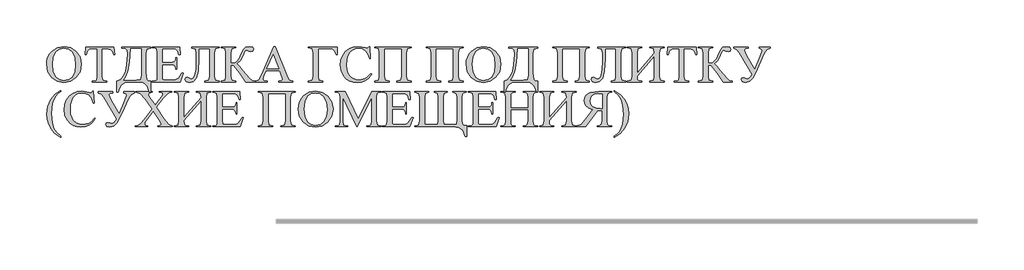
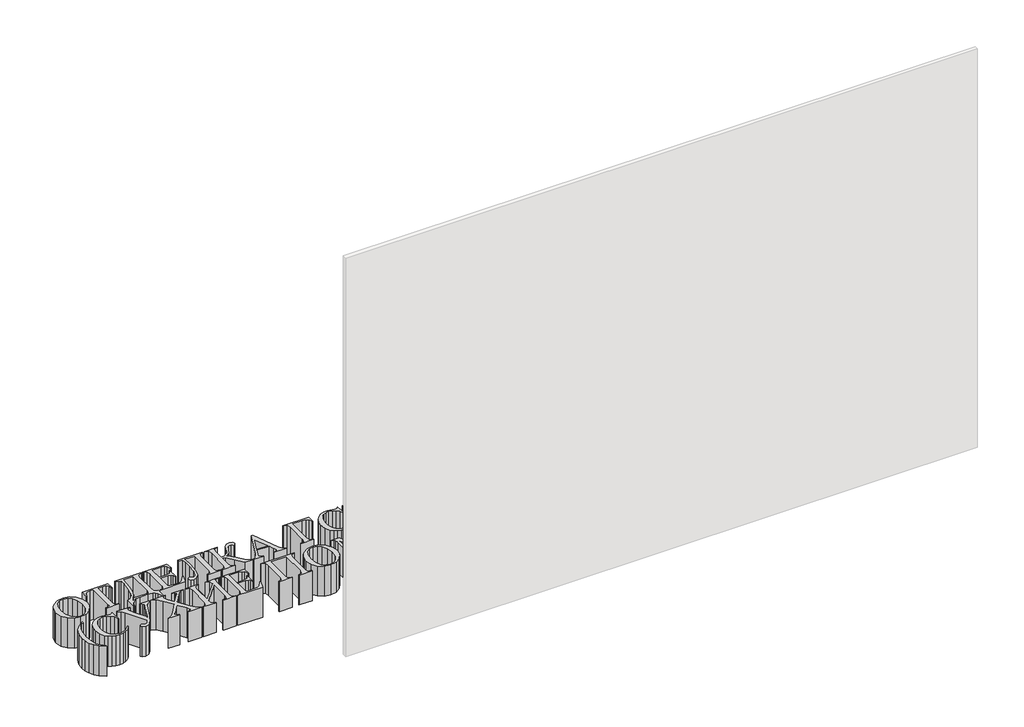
# One storey, part 3 of 17: 1 proxy.
"""IFC4 building model written with IfcOpenShell, lengths in millimetres."""

from ifc_helpers import new_model, si_unit, origin, origin_with_axes, place, context, project, spatial, polyline, outline, extrude, element, save

model = new_model("IFC4")

# Units and contexts
model_context = context("Model", 3, world=origin())
ifc_project = project(units=[si_unit("LENGTHUNIT", "METRE", prefix="MILLI")], contexts=[model_context])

# Site, building, storey
site = spatial("IfcSite", under=ifc_project)
building = spatial("IfcBuilding", under=site)
storey = spatial("IfcBuildingStorey", under=building, Name="Уровень 1", Elevation=0.0)

# Proxy
placement = place(None, origin())
element("IfcBuildingElementProxy", 1, Name="SG_Текст 2", ObjectType="SG_Текст 2", at=placement, inside=storey, context=model_context, shape_type="SweptSolid", body=[
    extrude(outline(polyline([(-694.4542029, -12982.3402374), (-666.748358, -12987.8009538), (-643.0048009, -13004.1831031), (-626.682991, -13028.7311857), (-621.2423877, -13058.6897018), (-626.7232173, -13089.497998), (-643.165706, -13114.5841069), (-667.3919784, -13131.2528684), (-696.2241589, -13136.8091223), (-725.2021597, -13131.3886321), (-749.1418199, -13115.1271616), (-765.2071873, -13090.2572689), (-770.5623098, -13059.011512), (-769.0161124, -13042.2396707), (-764.3775204, -13027.0819085), (-756.6465337, -13013.5382255), (-745.8231524, -13001.6086217), (-722.2405004, -12987.1573335), (-694.4542029, -12982.3402374)]), holes=[polyline([(-696.5861954, -12990.0636816), (-715.0299411, -12993.7443855), (-729.4108334, -13004.7864972), (-740.9658301, -13027.3836056), (-744.8174956, -13058.4885705), (-740.8250381, -13090.5287962), (-728.8476656, -13114.2421836), (-714.6176218, -13125.3748044), (-696.4655165, -13129.085678), (-676.8552089, -13125.0228245), (-660.9859445, -13112.8342641), (-650.4868875, -13091.8864329), (-646.9872019, -13061.5457672), (-650.8388674, -13028.3993189), (-662.3938641, -13004.907176), (-677.1166797, -12993.7745552), (-696.5861954, -12990.0636816)])]), origin_with_axes(), (0.0, 0.0, 1.0), 150.0),
    extrude(outline(polyline([(-482.2203913, -12984.9147188), (-479.6459099, -13018.3829772), (-483.8294422, -13018.3829772), (-487.2486753, -13005.1083074), (-496.6012836, -12995.6752466), (-512.028059, -12992.638163), (-533.7100196, -12992.638163), (-533.7100196, -13108.4898267), (-530.813728, -13126.7525542), (-518.1826786, -13131.6601594), (-513.1141683, -13131.6601594), (-513.1141683, -13134.2346408), (-574.9017223, -13134.2346408), (-574.9017223, -13131.6601594), (-569.7527594, -13131.6601594), (-561.8784667, -13130.1416177), (-556.679221, -13125.5859923), (-554.3058709, -13108.4898267), (-554.3058709, -12992.638163), (-572.1663357, -12992.638163), (-586.9696039, -12994.1667614), (-596.744588, -13002.2321289), (-601.5717407, -13018.3829772), (-605.7954992, -13018.3829772), (-603.2210178, -12984.9147188), (-482.2203913, -12984.9147188)])), origin_with_axes(), (0.0, 0.0, 1.0), 150.0),
    extrude(outline(polyline([(-448.7521329, -12984.9147188), (-325.1770251, -12984.9147188), (-325.1770251, -12990.0636816), (-342.0921725, -12994.4483453), (-345.7728764, -13013.032883), (-345.7728764, -13095.2553832), (-343.0173767, -13124.7412406), (-337.179539, -13128.9649992), (-325.1770251, -13130.3729187), (-325.1770251, -13178.0008249), (-330.3259879, -13178.0008249), (-340.6038004, -13151.2302408), (-348.1763961, -13142.7575822), (-356.6943092, -13137.653874), (-378.235478, -13134.2346408), (-415.0827432, -13134.2346408), (-436.0506875, -13137.6840437), (-450.6025415, -13148.0322522), (-459.6735658, -13162.423201), (-464.1990214, -13178.0008249), (-469.3479843, -13178.0008249), (-469.3479843, -13130.3729187), (-453.9966332, -13124.3289213), (-441.813101, -13109.2541259), (-432.837614, -13087.4313732), (-427.1103986, -13061.1435044), (-423.0073188, -13014.36035), (-425.8633841, -12998.2698411), (-432.641511, -12991.8135245), (-448.7521329, -12990.0636816), (-448.7521329, -12984.9147188)]), holes=[polyline([(-410.1349117, -12992.638163), (-414.0971995, -13048.5577095), (-420.5132899, -13084.8568918), (-429.4636355, -13108.5149681), (-441.0286887, -13126.5111966), (-386.6427688, -13126.5111966), (-369.2449061, -13123.916602), (-366.3687277, -13107.0014546), (-366.3687277, -12992.638163), (-410.1349117, -12992.638163)])]), origin_with_axes(), (0.0, 0.0, 1.0), 150.0),
    extrude(outline(polyline([(-276.2618782, -12992.638163), (-276.2618782, -13051.8512356), (-240.2191384, -13051.8512356), (-223.3643304, -13048.1906448), (-218.949497, -13041.5432533), (-217.0488056, -13031.2553843), (-214.4743242, -13031.2553843), (-214.4743242, -13080.1705311), (-217.0488056, -13080.1705311), (-220.1060023, -13067.2176715), (-226.5019796, -13061.6061066), (-240.2191384, -13059.5746798), (-276.2618782, -13059.5746798), (-276.2618782, -13109.5357098), (-275.3366739, -13121.7644965), (-272.098459, -13125.2239559), (-263.3492448, -13126.5111966), (-236.7999052, -13126.5111966), (-217.5114078, -13124.6607881), (-205.9463545, -13117.3396066), (-191.3039915, -13095.6174196), (-186.1550287, -13095.6174196), (-199.7515086, -13134.2346408), (-317.4535808, -13134.2346408), (-317.4535808, -13131.6601594), (-312.3448443, -13131.6601594), (-302.6905389, -13129.0052255), (-298.0846308, -13123.5143393), (-296.8577295, -13108.4898267), (-296.8577295, -13010.6595329), (-299.6333423, -12992.1554478), (-312.3448443, -12987.4892002), (-317.4535808, -12987.4892002), (-317.4535808, -12984.9147188), (-201.6019172, -12984.9147188), (-199.0274357, -13018.3829772), (-204.1763986, -13018.3829772), (-209.4460402, -13001.4074904), (-218.0142362, -12994.3678927), (-234.0242925, -12992.638163), (-276.2618782, -12992.638163)])), origin_with_axes(), (0.0, 0.0, 1.0), 150.0),
    extrude(outline(polyline([(-72.8778464, -12992.638163), (-119.2185119, -12992.638163), (-119.2185119, -13034.8355225), (-122.0041812, -13087.5067975), (-130.3611893, -13117.7619824), (-143.6157459, -13132.0473373), (-161.0940612, -13136.8091223), (-173.926242, -13132.8267213), (-178.4315844, -13123.5746787), (-175.5352928, -13116.5954205), (-168.4956952, -13113.6387895), (-160.5711196, -13117.2993803), (-151.5202084, -13121.3622338), (-142.6855134, -13117.364748), (-135.650944, -13105.3722906), (-131.0500642, -13082.2270993), (-129.5164376, -13044.7714117), (-129.5164376, -13013.3144669), (-133.1971414, -12994.4885716), (-150.1122889, -12990.0636816), (-150.1122889, -12984.9147188), (-31.6861438, -12984.9147188), (-31.6861438, -12987.4892002), (-48.6012912, -12991.893977), (-52.2819951, -13010.6595329), (-52.2819951, -13108.4898267), (-48.6012912, -13127.2553826), (-31.6861438, -13131.6601594), (-31.6861438, -13134.2346408), (-93.4736977, -13134.2346408), (-93.4736977, -13131.6601594), (-76.5585503, -13127.2553826), (-72.8778464, -13108.4898267), (-72.8778464, -12992.638163)])), origin_with_axes(), (0.0, 0.0, 1.0), 150.0),
    extrude(outline(polyline([(121.4150478, -13130.1315611), (121.4150478, -13134.2346408), (82.4357901, -13134.2346408), (55.6450929, -13096.4018319), (30.7450305, -13065.4276024), (17.2290031, -13062.1491612), (17.2290031, -13108.4898267), (20.8493676, -13127.2553826), (37.8248544, -13131.6601594), (37.8248544, -13134.2346408), (-23.9626996, -13134.2346408), (-23.9626996, -13131.6601594), (-7.0877784, -13127.2956089), (-3.3668482, -13108.4898267), (-3.3668482, -13010.6595329), (-7.0475521, -12991.893977), (-23.9626996, -12987.4892002), (-23.9626996, -12984.9147188), (37.8248544, -12984.9147188), (37.8248544, -12987.4892002), (20.8493676, -12991.893977), (17.2290031, -13010.6595329), (17.2290031, -13054.425717), (34.1039242, -13052.796553), (44.6432075, -13045.8776342), (53.9153632, -13034.2321284), (62.6846905, -13013.7167296), (70.8908501, -12995.0919656), (81.1083232, -12986.1013938), (97.8424524, -12982.3402374), (110.7550857, -12985.4376603), (115.0592968, -12994.7299292), (111.6601768, -13002.2924683), (103.8763932, -13005.5105701), (93.3773362, -13001.4477166), (84.3666512, -12997.7871259), (78.2120316, -13001.5281692), (70.0460983, -13020.5954222), (57.8575379, -13043.9769428), (42.6922333, -13056.9197459), (53.3924217, -13065.7091863), (69.3220254, -13085.4803991), (98.4056202, -13121.0404236), (108.8644509, -13127.7179848), (121.4150478, -13130.1315611)])), origin_with_axes(), (0.0, 0.0, 1.0), 150.0),
    extrude(outline(polyline([(226.6872019, -13085.319494), (168.4395599, -13085.319494), (158.8254809, -13107.6853013), (155.0844376, -13121.6035914), (158.3427656, -13128.0397949), (172.4219608, -13131.6601594), (172.4219608, -13134.2346408), (124.9549598, -13134.2346408), (124.9549598, -13131.6601594), (137.1032939, -13126.9939119), (149.6136646, -13103.6224478), (201.9882708, -12982.3402374), (207.4992701, -12982.3402374), (256.6557746, -13105.5935351), (268.1202622, -13126.3100652), (282.440815, -13131.6601594), (282.440815, -13134.2346408), (223.4288739, -13134.2346408), (223.4288739, -13131.6601594), (235.5168686, -13128.341492), (238.674631, -13121.4426863), (234.2497411, -13104.3062944), (226.6872019, -13085.319494)]), holes=[polyline([(223.5897789, -13077.5960497), (198.7299428, -13016.9750577), (171.7783405, -13077.5960497), (223.5897789, -13077.5960497)])]), origin_with_axes(), (0.0, 0.0, 1.0), 150.0),
    extrude(outline(polyline([(472.2685931, -12984.9147188), (472.9122134, -13018.3829772), (467.7632506, -13018.3829772), (462.9964374, -13002.0712238), (452.5174935, -12994.2874402), (434.5765761, -12992.638163), (390.5288082, -12992.638163), (390.5288082, -13108.4898267), (394.1893989, -13127.2553826), (411.1246595, -13131.6601594), (411.1246595, -13134.2346408), (349.3371055, -13134.2346408), (349.3371055, -13131.6601594), (366.252253, -13127.2553826), (369.9329569, -13108.4898267), (369.9329569, -13010.6595329), (366.252253, -12991.893977), (349.3371055, -12987.4892002), (349.3371055, -12984.9147188), (472.2685931, -12984.9147188)])), origin_with_axes(), (0.0, 0.0, 1.0), 150.0),
    extrude(outline(polyline([(611.9342098, -12982.3402374), (614.5086912, -13033.8298657), (611.9342098, -13033.8298657), (603.8235877, -13013.8022105), (592.8468437, -13000.3012679), (579.2051092, -12992.6230782), (563.0995155, -12990.0636816), (549.2365365, -12991.9191184), (536.7714204, -12997.4854288), (526.2623068, -13007.119621), (518.2673352, -13021.1787031), (513.2139098, -13039.4364023), (511.5294346, -13061.666446), (513.1334572, -13080.2912099), (517.945525, -13096.26104), (525.9857512, -13109.1937865), (537.2742488, -13118.7072998), (551.0919733, -13124.5602224), (566.71988, -13126.5111966), (592.0825445, -13120.8191791), (603.6224563, -13112.3163508), (616.2384209, -13098.191901), (619.6576541, -13100.7663824), (607.5445179, -13116.9624853), (593.5709166, -13128.1403606), (577.2641915, -13134.6419318), (558.151684, -13136.8091223), (540.7110809, -13135.1070481), (525.3572157, -13130.0008257), (512.0900883, -13121.490455), (500.9096988, -13109.575936), (489.5658901, -13087.5118258), (485.7846205, -13061.8675773), (488.2836777, -13040.6431905), (495.7808491, -13021.2189294), (507.6626842, -13004.7814689), (523.3157324, -12992.5174842), (541.668969, -12984.8845491), (561.6513697, -12982.3402374), (593.5105772, -12988.2534994), (600.1076858, -12990.0636816), (605.2968749, -12988.494857), (609.3597284, -12982.3402374), (611.9342098, -12982.3402374)])), origin_with_axes(), (0.0, 0.0, 1.0), 150.0),
    extrude(outline(polyline([(748.3817248, -12992.638163), (673.7217638, -12992.638163), (673.7217638, -13108.4898267), (677.3421282, -13127.2553826), (694.3176151, -13131.6601594), (694.3176151, -13134.2346408), (632.5300611, -13134.2346408), (632.5300611, -13131.6601594), (649.4452085, -13127.2553826), (653.1259124, -13108.4898267), (653.1259124, -13010.6595329), (649.4452085, -12991.893977), (632.5300611, -12987.4892002), (632.5300611, -12984.9147188), (789.5734274, -12984.9147188), (789.5734274, -12987.4892002), (772.65828, -12991.893977), (768.9775761, -13010.6595329), (768.9775761, -13108.4898267), (772.65828, -13127.2553826), (789.5734274, -13131.6601594), (789.5734274, -13134.2346408), (727.7858735, -13134.2346408), (727.7858735, -13131.6601594), (744.6809077, -13127.2956089), (748.3817248, -13108.4898267), (748.3817248, -12992.638163)])), origin_with_axes(), (0.0, 0.0, 1.0), 150.0),
    extrude(outline(polyline([(969.7871264, -12992.638163), (895.1271654, -12992.638163), (895.1271654, -13108.4898267), (898.7475299, -13127.2553826), (915.7230167, -13131.6601594), (915.7230167, -13134.2346408), (853.9354628, -13134.2346408), (853.9354628, -13131.6601594), (870.8506102, -13127.2553826), (874.5313141, -13108.4898267), (874.5313141, -13010.6595329), (870.8506102, -12991.893977), (853.9354628, -12987.4892002), (853.9354628, -12984.9147188), (1010.978829, -12984.9147188), (1010.978829, -12987.4892002), (994.0636816, -12991.893977), (990.3829777, -13010.6595329), (990.3829777, -13108.4898267), (994.0636816, -13127.2553826), (1010.978829, -13131.6601594), (1010.978829, -13134.2346408), (949.1912751, -13134.2346408), (949.1912751, -13131.6601594), (966.0863094, -13127.2956089), (969.7871264, -13108.4898267), (969.7871264, -12992.638163)])), origin_with_axes(), (0.0, 0.0, 1.0), 150.0),
    extrude(outline(polyline([(1099.9593429, -12982.3402374), (1127.6651878, -12987.8009538), (1151.408745, -13004.1831031), (1167.7305549, -13028.7311857), (1173.1711582, -13058.6897018), (1167.6903286, -13089.497998), (1151.2478399, -13114.5841069), (1127.0215675, -13131.2528684), (1098.189387, -13136.8091223), (1069.2113862, -13131.3886321), (1045.271726, -13115.1271616), (1029.2063586, -13090.2572689), (1023.8512361, -13059.011512), (1025.3974335, -13042.2396707), (1030.0360255, -13027.0819085), (1037.7670121, -13013.5382255), (1048.5903935, -13001.6086217), (1072.1730455, -12987.1573335), (1099.9593429, -12982.3402374)]), holes=[polyline([(1097.8273505, -12990.0636816), (1079.3836048, -12993.7443855), (1065.0027125, -13004.7864972), (1053.4477158, -13027.3836056), (1049.5960503, -13058.4885705), (1053.5885078, -13090.5287962), (1065.5658803, -13114.2421836), (1079.795924, -13125.3748044), (1097.9480293, -13129.085678), (1117.558337, -13125.0228245), (1133.4276013, -13112.8342641), (1143.9266583, -13091.8864329), (1147.426344, -13061.5457672), (1143.5746785, -13028.3993189), (1132.0196818, -13004.907176), (1117.2968662, -12993.7745552), (1097.8273505, -12990.0636816)])]), origin_with_axes(), (0.0, 0.0, 1.0), 150.0),
    extrude(outline(polyline([(1206.6394165, -12984.9147188), (1330.2145244, -12984.9147188), (1330.2145244, -12990.0636816), (1313.299377, -12994.4483453), (1309.6186731, -13013.032883), (1309.6186731, -13095.2553832), (1312.3741728, -13124.7412406), (1318.2120105, -13128.9649992), (1330.2145244, -13130.3729187), (1330.2145244, -13178.0008249), (1325.0655616, -13178.0008249), (1314.7877491, -13151.2302408), (1307.2151534, -13142.7575822), (1298.6972403, -13137.653874), (1277.1560715, -13134.2346408), (1240.3088063, -13134.2346408), (1219.340862, -13137.6840437), (1204.789008, -13148.0322522), (1195.7179837, -13162.423201), (1191.1925281, -13178.0008249), (1186.0435652, -13178.0008249), (1186.0435652, -13130.3729187), (1201.3949163, -13124.3289213), (1213.5784485, -13109.2541259), (1222.5539354, -13087.4313732), (1228.2811509, -13061.1435044), (1232.3842307, -13014.36035), (1229.5281654, -12998.2698411), (1222.7500385, -12991.8135245), (1206.6394165, -12990.0636816), (1206.6394165, -12984.9147188)]), holes=[polyline([(1245.2566378, -12992.638163), (1241.29435, -13048.5577095), (1234.8782596, -13084.8568918), (1225.927914, -13108.5149681), (1214.3628608, -13126.5111966), (1268.7487807, -13126.5111966), (1286.1466434, -13123.916602), (1289.0228218, -13107.0014546), (1289.0228218, -12992.638163), (1245.2566378, -12992.638163)])]), origin_with_axes(), (0.0, 0.0, 1.0), 150.0),
    extrude(outline(polyline([(1510.4282235, -12992.638163), (1435.7682624, -12992.638163), (1435.7682624, -13108.4898267), (1439.3886269, -13127.2553826), (1456.3641137, -13131.6601594), (1456.3641137, -13134.2346408), (1394.5765598, -13134.2346408), (1394.5765598, -13131.6601594), (1411.4917072, -13127.2553826), (1415.1724111, -13108.4898267), (1415.1724111, -13010.6595329), (1411.4917072, -12991.893977), (1394.5765598, -12987.4892002), (1394.5765598, -12984.9147188), (1551.6199261, -12984.9147188), (1551.6199261, -12987.4892002), (1534.7047787, -12991.893977), (1531.0240748, -13010.6595329), (1531.0240748, -13108.4898267), (1534.7047787, -13127.2553826), (1551.6199261, -13131.6601594), (1551.6199261, -13134.2346408), (1489.8323721, -13134.2346408), (1489.8323721, -13131.6601594), (1506.7274064, -13127.2956089), (1510.4282235, -13108.4898267), (1510.4282235, -12992.638163)])), origin_with_axes(), (0.0, 0.0, 1.0), 150.0),
    extrude(outline(polyline([(1664.8971083, -12992.638163), (1618.5564429, -12992.638163), (1618.5564429, -13034.8355225), (1615.7707735, -13087.5067975), (1607.4137655, -13117.7619824), (1594.1592088, -13132.0473373), (1576.6808936, -13136.8091223), (1563.8487128, -13132.8267213), (1559.3433703, -13123.5746787), (1562.2396619, -13116.5954205), (1569.2792595, -13113.6387895), (1577.2038351, -13117.2993803), (1586.2547464, -13121.3622338), (1595.0894414, -13117.364748), (1602.1240107, -13105.3722906), (1606.7248906, -13082.2270993), (1608.2585172, -13044.7714117), (1608.2585172, -13013.3144669), (1604.5778133, -12994.4885716), (1587.6626659, -12990.0636816), (1587.6626659, -12984.9147188), (1706.088811, -12984.9147188), (1706.088811, -12987.4892002), (1689.1736635, -12991.893977), (1685.4929596, -13010.6595329), (1685.4929596, -13108.4898267), (1689.1736635, -13127.2553826), (1706.088811, -13131.6601594), (1706.088811, -13134.2346408), (1644.301257, -13134.2346408), (1644.301257, -13131.6601594), (1661.2164044, -13127.2553826), (1664.8971083, -13108.4898267), (1664.8971083, -12992.638163)])), origin_with_axes(), (0.0, 0.0, 1.0), 150.0),
    extrude(outline(polyline([(1829.6639188, -13010.6595329), (1825.5809522, -12991.5118274), (1809.0680675, -12987.4892002), (1809.0680675, -12984.9147188), (1870.8556215, -12984.9147188), (1870.8556215, -12987.4892002), (1853.9404741, -12991.893977), (1850.2597702, -13010.6595329), (1850.2597702, -13108.4898267), (1853.9404741, -13127.2553826), (1870.8556215, -13131.6601594), (1870.8556215, -13134.2346408), (1809.0680675, -13134.2346408), (1809.0680675, -13131.6601594), (1826.0435544, -13127.1950432), (1829.6639188, -13108.4898267), (1829.6639188, -13023.53194), (1755.0039578, -13108.4898267), (1756.210746, -13123.313208), (1761.3194825, -13129.2465831), (1775.5998091, -13131.6601594), (1775.5998091, -13134.2346408), (1713.8122552, -13134.2346408), (1713.8122552, -13131.6601594), (1730.7274026, -13127.2553826), (1734.4081065, -13108.4898267), (1734.4081065, -13010.6595329), (1730.7274026, -12991.893977), (1713.8122552, -12987.4892002), (1713.8122552, -12984.9147188), (1775.5998091, -12984.9147188), (1775.5998091, -12987.4892002), (1758.6645486, -12991.893977), (1755.0039578, -13010.6595329), (1755.0039578, -13095.6174196), (1829.6639188, -13010.6595329)])), origin_with_axes(), (0.0, 0.0, 1.0), 150.0),
    extrude(outline(polyline([(2007.3031364, -12984.9147188), (2009.8776179, -13018.3829772), (2005.6940856, -13018.3829772), (2002.2748524, -13005.1083074), (1992.9222442, -12995.6752466), (1977.4954688, -12992.638163), (1955.8135082, -12992.638163), (1955.8135082, -13108.4898267), (1958.7097997, -13126.7525542), (1971.3408492, -13131.6601594), (1976.4093595, -13131.6601594), (1976.4093595, -13134.2346408), (1914.6218055, -13134.2346408), (1914.6218055, -13131.6601594), (1919.7707684, -13131.6601594), (1927.6450611, -13130.1416177), (1932.8443068, -13125.5859923), (1935.2176568, -13108.4898267), (1935.2176568, -12992.638163), (1917.357192, -12992.638163), (1902.5539239, -12994.1667614), (1892.7789398, -13002.2321289), (1887.9517871, -13018.3829772), (1883.7280285, -13018.3829772), (1886.30251, -12984.9147188), (2007.3031364, -12984.9147188)])), origin_with_axes(), (0.0, 0.0, 1.0), 150.0),
    extrude(outline(polyline([(2162.9788095, -13130.1315611), (2162.9788095, -13134.2346408), (2123.9995518, -13134.2346408), (2097.2088546, -13096.4018319), (2072.3087922, -13065.4276024), (2058.7927647, -13062.1491612), (2058.7927647, -13108.4898267), (2062.4131292, -13127.2553826), (2079.388616, -13131.6601594), (2079.388616, -13134.2346408), (2017.6010621, -13134.2346408), (2017.6010621, -13131.6601594), (2034.4759832, -13127.2956089), (2038.1969134, -13108.4898267), (2038.1969134, -13010.6595329), (2034.5162095, -12991.893977), (2017.6010621, -12987.4892002), (2017.6010621, -12984.9147188), (2079.388616, -12984.9147188), (2079.388616, -12987.4892002), (2062.4131292, -12991.893977), (2058.7927647, -13010.6595329), (2058.7927647, -13054.425717), (2075.6676859, -13052.796553), (2086.2069692, -13045.8776342), (2095.4791249, -13034.2321284), (2104.2484522, -13013.7167296), (2112.4546117, -12995.0919656), (2122.6720848, -12986.1013938), (2139.406214, -12982.3402374), (2152.3188474, -12985.4376603), (2156.6230585, -12994.7299292), (2153.2239385, -13002.2924683), (2145.4401548, -13005.5105701), (2134.9410978, -13001.4477166), (2125.9304129, -12997.7871259), (2119.7757932, -13001.5281692), (2111.60986, -13020.5954222), (2099.4212996, -13043.9769428), (2084.255995, -13056.9197459), (2094.9561833, -13065.7091863), (2110.8857871, -13085.4803991), (2139.9693818, -13121.0404236), (2150.4282126, -13127.7179848), (2162.9788095, -13130.1315611)])), origin_with_axes(), (0.0, 0.0, 1.0), 150.0),
    extrude(outline(polyline([(2169.4954656, -12984.9147188), (2231.2830195, -12984.9147188), (2231.2830195, -12990.0636816), (2217.7669921, -12992.336466), (2213.2616496, -12997.948031), (2225.2088524, -13023.5721663), (2258.3150744, -13080.5325676), (2282.7726478, -13023.5721663), (2290.496092, -12999.878892), (2287.2779903, -12993.4426885), (2277.623685, -12990.0636816), (2277.623685, -12984.9147188), (2323.9643504, -12984.9147188), (2323.9643504, -12990.0636816), (2309.4527228, -12996.3892629), (2298.9033829, -13011.5847372), (2269.9002407, -13079.3257794), (2251.5369475, -13116.1127053), (2236.1101722, -13131.8210645), (2218.7726489, -13136.8091223), (2205.7192236, -13133.7116993), (2200.3892425, -13125.2641822), (2203.124629, -13118.7877523), (2210.5664894, -13116.2132709), (2221.5482617, -13119.3911464), (2228.0246915, -13121.3622338), (2237.1962815, -13116.5250245), (2247.4137546, -13102.0133969), (2192.9876085, -13008.4873142), (2182.5287777, -12995.2729839), (2169.4954656, -12990.0636816), (2169.4954656, -12984.9147188)])), origin_with_axes(), (0.0, 0.0, 1.0), 150.0),
    extrude(outline(polyline([(-708.7747558, -13366.6180461), (-708.7747558, -13371.7670089), (-736.9733725, -13352.5388509), (-751.2536991, -13335.4879398), (-761.8332087, -13315.6312462), (-768.3800345, -13293.9643704), (-770.5623098, -13271.4829126), (-766.2832401, -13239.4829131), (-753.446031, -13210.4194315), (-733.7200728, -13186.756327), (-708.7747558, -13170.9574586), (-708.7747558, -13176.1064214), (-721.632078, -13184.7198719), (-731.9652017, -13195.998313), (-739.884749, -13210.2987527), (-745.5013422, -13227.9781993), (-749.9664584, -13268.4257159), (-746.1851889, -13310.0196813), (-738.964573, -13333.7129555), (-727.5403117, -13350.8895737), (-708.7747558, -13366.6180461)])), origin_with_axes(), (0.0, 0.0, 1.0), 150.0),
    extrude(outline(polyline([(-569.7527594, -13173.53194), (-567.178278, -13225.0215683), (-569.7527594, -13225.0215683), (-577.8633815, -13204.9939131), (-588.8401255, -13191.4929705), (-602.4818601, -13183.8147808), (-618.5874538, -13181.2553843), (-632.4504328, -13183.1108211), (-644.9155488, -13188.6771315), (-655.4246624, -13198.3113236), (-663.419634, -13212.3704057), (-668.4730594, -13230.628105), (-670.1575346, -13252.8581486), (-668.553512, -13271.4829126), (-663.7414442, -13287.4527426), (-655.7012181, -13300.3854891), (-644.4127204, -13309.8990024), (-630.594996, -13315.751925), (-614.9670893, -13317.7028992), (-589.6044247, -13312.0108817), (-578.0645129, -13303.5080535), (-565.4485483, -13289.3836037), (-562.0293152, -13291.9580851), (-574.1424514, -13308.1541879), (-588.1160526, -13319.3320632), (-604.4227777, -13325.8336345), (-623.5352852, -13328.0008249), (-640.9758883, -13326.2987507), (-656.3297536, -13321.1925283), (-669.5968809, -13312.6821576), (-680.7772704, -13300.7676387), (-692.1210792, -13278.7035284), (-695.9023487, -13253.05928), (-693.4032916, -13231.8348931), (-685.9061201, -13212.410632), (-674.024285, -13195.9731716), (-658.3712369, -13183.7091869), (-640.0180002, -13176.0762517), (-620.0355995, -13173.53194), (-588.176392, -13179.445202), (-581.5792834, -13181.2553843), (-576.3900943, -13179.6865596), (-572.3272408, -13173.53194), (-569.7527594, -13173.53194)])), origin_with_axes(), (0.0, 0.0, 1.0), 150.0),
    extrude(outline(polyline([(-549.1569081, -13176.1064214), (-487.3693542, -13176.1064214), (-487.3693542, -13181.2553843), (-500.8853816, -13183.5281686), (-505.3907241, -13189.1397336), (-493.4435212, -13214.7638689), (-460.3372993, -13271.7242702), (-435.8797259, -13214.7638689), (-428.1562816, -13191.0705947), (-431.3743834, -13184.6343911), (-441.0286887, -13181.2553843), (-441.0286887, -13176.1064214), (-394.6880232, -13176.1064214), (-394.6880232, -13181.2553843), (-409.1996509, -13187.5809655), (-419.7489908, -13202.7764398), (-448.7521329, -13270.5174821), (-467.1154262, -13307.3044079), (-482.5422015, -13323.0127671), (-499.8797248, -13328.0008249), (-512.9331501, -13324.9034019), (-518.2631311, -13316.4558848), (-515.5277446, -13309.979455), (-508.0858843, -13307.4049736), (-497.104112, -13310.5828491), (-490.6276822, -13312.5539364), (-481.4560922, -13307.7167272), (-471.238619, -13293.2050995), (-525.6647652, -13199.6790169), (-536.1235959, -13186.4646865), (-549.1569081, -13181.2553843), (-549.1569081, -13176.1064214)])), origin_with_axes(), (0.0, 0.0, 1.0), 150.0),
    extrude(outline(polyline([(-300.5987728, -13243.0027119), (-268.5384339, -13290.3490342), (-248.6666555, -13316.7575818), (-232.2543365, -13322.8518621), (-232.2543365, -13325.4263435), (-295.4095837, -13325.4263435), (-295.4095837, -13322.8518621), (-285.9161835, -13321.4439425), (-282.0946876, -13318.1856145), (-280.6063156, -13313.7607246), (-281.5717461, -13308.3301778), (-287.6861395, -13297.9115734), (-313.4309536, -13259.8977462), (-344.1235992, -13300.1642446), (-350.0972006, -13309.1950427), (-351.0827443, -13313.8814034), (-348.1060001, -13320.0561361), (-336.7219651, -13322.8518621), (-336.7219651, -13325.4263435), (-390.4240384, -13325.4263435), (-390.4240384, -13322.8518621), (-380.6892805, -13320.3980595), (-367.6559684, -13312.1717868), (-353.4963206, -13296.3427487), (-319.2235368, -13251.3295503), (-348.3473578, -13207.7644976), (-368.8225303, -13184.5338254), (-388.1713672, -13178.6809028), (-388.1713672, -13176.1064214), (-319.1833105, -13176.1064214), (-319.1833105, -13178.6809028), (-331.2914184, -13181.7783258), (-334.5497465, -13187.8524929), (-329.2398785, -13200.7249), (-306.391356, -13234.4747422), (-279.8420164, -13199.6387906), (-274.1298858, -13191.5331968), (-273.0840027, -13187.0077412), (-274.4114697, -13182.9448877), (-278.6151151, -13179.7267859), (-289.1342852, -13178.6809028), (-289.1342852, -13176.1064214), (-235.8344747, -13176.1064214), (-235.8344747, -13178.6809028), (-246.1324004, -13180.7324427), (-257.0739464, -13187.7318141), (-271.1129153, -13204.0636805), (-300.5987728, -13243.0027119)])), origin_with_axes(), (0.0, 0.0, 1.0), 150.0),
    extrude(outline(polyline([(-108.9205862, -13201.8512356), (-113.0035529, -13182.7035301), (-129.5164376, -13178.6809028), (-129.5164376, -13176.1064214), (-67.7288836, -13176.1064214), (-67.7288836, -13178.6809028), (-84.644031, -13183.0856796), (-88.3247349, -13201.8512356), (-88.3247349, -13299.6815293), (-84.644031, -13318.4470853), (-67.7288836, -13322.8518621), (-67.7288836, -13325.4263435), (-129.5164376, -13325.4263435), (-129.5164376, -13322.8518621), (-112.5409507, -13318.3867459), (-108.9205862, -13299.6815293), (-108.9205862, -13214.7236426), (-183.5805473, -13299.6815293), (-182.3737591, -13314.5049106), (-177.2650225, -13320.4382857), (-162.9846959, -13322.8518621), (-162.9846959, -13325.4263435), (-224.7722499, -13325.4263435), (-224.7722499, -13322.8518621), (-207.8571025, -13318.4470853), (-204.1763986, -13299.6815293), (-204.1763986, -13201.8512356), (-207.8571025, -13183.0856796), (-224.7722499, -13178.6809028), (-224.7722499, -13176.1064214), (-162.9846959, -13176.1064214), (-162.9846959, -13178.6809028), (-179.9199565, -13183.0856796), (-183.5805473, -13201.8512356), (-183.5805473, -13286.8091223), (-108.9205862, -13201.8512356)])), origin_with_axes(), (0.0, 0.0, 1.0), 150.0),
    extrude(outline(polyline([(-18.8137367, -13183.8298657), (-18.8137367, -13243.0429382), (17.2290031, -13243.0429382), (34.0838111, -13239.3823474), (38.4986444, -13232.734956), (40.3993358, -13222.4470869), (42.9738172, -13222.4470869), (42.9738172, -13271.3622338), (40.3993358, -13271.3622338), (37.3421391, -13258.4093741), (30.9461619, -13252.7978092), (17.2290031, -13250.7663824), (-18.8137367, -13250.7663824), (-18.8137367, -13300.7274124), (-17.8885325, -13312.9561991), (-14.6503176, -13316.4156585), (-5.9011034, -13317.7028992), (20.6482362, -13317.7028992), (39.9367337, -13315.8524907), (51.5017869, -13308.5313092), (66.1441499, -13286.8091223), (71.2931128, -13286.8091223), (57.6966328, -13325.4263435), (-60.0054394, -13325.4263435), (-60.0054394, -13322.8518621), (-54.8967028, -13322.8518621), (-45.2423975, -13320.1969281), (-40.6364893, -13314.706042), (-39.409588, -13299.6815293), (-39.409588, -13201.8512356), (-42.1852008, -13183.3471504), (-54.8967028, -13178.6809028), (-60.0054394, -13178.6809028), (-60.0054394, -13176.1064214), (55.8462243, -13176.1064214), (58.4207057, -13209.5746798), (53.2717429, -13209.5746798), (48.0021012, -13192.599193), (39.4339053, -13185.5595954), (23.423849, -13183.8298657), (-18.8137367, -13183.8298657)])), origin_with_axes(), (0.0, 0.0, 1.0), 150.0),
    extrude(outline(polyline([(251.5068118, -13183.8298657), (176.8468508, -13183.8298657), (176.8468508, -13299.6815293), (180.4672153, -13318.4470853), (197.4427021, -13322.8518621), (197.4427021, -13325.4263435), (135.6551481, -13325.4263435), (135.6551481, -13322.8518621), (152.5702956, -13318.4470853), (156.2509995, -13299.6815293), (156.2509995, -13201.8512356), (152.5702956, -13183.0856796), (135.6551481, -13178.6809028), (135.6551481, -13176.1064214), (292.6985144, -13176.1064214), (292.6985144, -13178.6809028), (275.783367, -13183.0856796), (272.1026631, -13201.8512356), (272.1026631, -13299.6815293), (275.783367, -13318.4470853), (292.6985144, -13322.8518621), (292.6985144, -13325.4263435), (230.9109605, -13325.4263435), (230.9109605, -13322.8518621), (247.8059948, -13318.4873115), (251.5068118, -13299.6815293), (251.5068118, -13183.8298657)])), origin_with_axes(), (0.0, 0.0, 1.0), 150.0),
    extrude(outline(polyline([(381.6790283, -13173.53194), (409.3848732, -13178.9926565), (433.1284303, -13195.3748058), (449.4502402, -13219.9228883), (454.8908435, -13249.8814045), (449.410014, -13280.6897006), (432.9675252, -13305.7758095), (408.7412529, -13322.444571), (379.9090723, -13328.0008249), (350.9310716, -13322.5803347), (326.9914114, -13306.3188642), (310.926044, -13281.4489715), (305.5709215, -13250.2032146), (307.1171188, -13233.4313733), (311.7557108, -13218.2736112), (319.4866975, -13204.7299282), (330.3100788, -13192.8003244), (353.8927309, -13178.3490361), (381.6790283, -13173.53194)]), holes=[polyline([(379.5470359, -13181.2553843), (361.1032901, -13184.9360882), (346.7223978, -13195.9781998), (335.1674012, -13218.5753082), (331.3157356, -13249.6802731), (335.3081931, -13281.7204988), (347.2855657, -13305.4338862), (361.5156094, -13316.566507), (379.6677147, -13320.2773806), (399.2780223, -13316.2145272), (415.1472867, -13304.0259667), (425.6463437, -13283.0781355), (429.1460294, -13252.7374698), (425.2943638, -13219.5910216), (413.7393672, -13196.0988787), (399.0165516, -13184.9662579), (379.5470359, -13181.2553843)])]), origin_with_axes(), (0.0, 0.0, 1.0), 150.0),
    extrude(outline(polyline([(555.2956187, -13325.4263435), (496.0825462, -13199.7996957), (496.0825462, -13299.6815293), (498.9788378, -13317.9442569), (511.5294346, -13322.8518621), (516.6783975, -13322.8518621), (516.6783975, -13325.4263435), (465.1887692, -13325.4263435), (465.1887692, -13322.8518621), (470.337732, -13322.8518621), (478.2120248, -13321.3333203), (483.4112704, -13316.777695), (485.7846205, -13299.6815293), (485.7846205, -13201.8512356), (483.6526281, -13186.6457047), (478.1014025, -13180.9536872), (465.1887692, -13178.6809028), (465.1887692, -13176.1064214), (507.4665812, -13176.1064214), (562.5765739, -13293.2453258), (620.1805956, -13176.1064214), (660.8493567, -13176.1064214), (660.8493567, -13178.6809028), (655.8210727, -13178.6809028), (647.8562708, -13180.1994446), (642.6268554, -13184.7550699), (640.2535054, -13201.8512356), (640.2535054, -13299.6815293), (643.2704758, -13317.9442569), (655.8210727, -13322.8518621), (660.8493567, -13322.8518621), (660.8493567, -13325.4263435), (599.0618027, -13325.4263435), (599.0618027, -13322.8518621), (604.2107656, -13322.8518621), (612.1453977, -13321.3333203), (617.284304, -13316.777695), (619.6576541, -13299.6815293), (619.6576541, -13199.7996957), (557.8701001, -13325.4263435), (555.2956187, -13325.4263435)])), origin_with_axes(), (0.0, 0.0, 1.0), 150.0),
    extrude(outline(polyline([(707.1900221, -13183.8298657), (707.1900221, -13243.0429382), (743.2327619, -13243.0429382), (760.08757, -13239.3823474), (764.5024033, -13232.734956), (766.4030947, -13222.4470869), (768.9775761, -13222.4470869), (768.9775761, -13271.3622338), (766.4030947, -13271.3622338), (763.345898, -13258.4093741), (756.9499207, -13252.7978092), (743.2327619, -13250.7663824), (707.1900221, -13250.7663824), (707.1900221, -13300.7274124), (708.1152264, -13312.9561991), (711.3534413, -13316.4156585), (720.1026555, -13317.7028992), (746.6519951, -13317.7028992), (765.9404925, -13315.8524907), (777.5055458, -13308.5313092), (792.1479088, -13286.8091223), (797.2968716, -13286.8091223), (783.7003917, -13325.4263435), (665.9983195, -13325.4263435), (665.9983195, -13322.8518621), (671.1070561, -13322.8518621), (680.7613614, -13320.1969281), (685.3672695, -13314.706042), (686.5941708, -13299.6815293), (686.5941708, -13201.8512356), (683.8185581, -13183.3471504), (671.1070561, -13178.6809028), (665.9983195, -13178.6809028), (665.9983195, -13176.1064214), (781.8499832, -13176.1064214), (784.4244646, -13209.5746798), (779.2755017, -13209.5746798), (774.0058601, -13192.599193), (765.4376641, -13185.5595954), (749.4276079, -13183.8298657), (707.1900221, -13183.8298657)])), origin_with_axes(), (0.0, 0.0, 1.0), 150.0),
    extrude(outline(polyline([(805.0203159, -13325.4263435), (805.0203159, -13322.8518621), (809.3647533, -13322.4093731), (822.036029, -13318.2459539), (825.6161672, -13299.6815293), (825.6161672, -13201.8512356), (821.7946714, -13183.3672635), (805.0203159, -13178.6809028), (805.0203159, -13176.1064214), (864.2333884, -13176.1064214), (864.2333884, -13178.6809028), (849.4502334, -13183.9103182), (846.2120185, -13201.8512356), (846.2120185, -13298.2333835), (847.0768834, -13312.8154072), (849.9530618, -13316.7978081), (859.2453307, -13317.7028992), (889.7368449, -13317.7028992), (903.353438, -13315.9128301), (905.4250911, -13298.2333835), (905.4250911, -13201.8512356), (902.2673287, -13184.0712233), (887.4037212, -13178.6809028), (887.4037212, -13176.1064214), (944.0423123, -13176.1064214), (944.0423123, -13178.6809028), (929.1988179, -13184.030997), (926.0209424, -13201.8512356), (926.0209424, -13298.2333835), (927.9920297, -13315.3496623), (942.8757504, -13317.7028992), (973.9304324, -13317.7028992), (982.2371576, -13316.636903), (984.7110734, -13313.4389144), (985.2340149, -13298.2333835), (985.2340149, -13201.8512356), (982.0159131, -13183.9706576), (967.212645, -13178.6809028), (967.212645, -13176.1064214), (1023.8512361, -13176.1064214), (1023.8512361, -13178.6809028), (1012.1655041, -13181.0944792), (1007.0366544, -13187.3295513), (1005.8298662, -13201.8512356), (1005.8298662, -13297.9517996), (1006.8958624, -13312.936086), (1011.4816575, -13318.7890086), (1026.4257175, -13321.5243951), (1026.4257175, -13369.1925275), (1021.2767547, -13369.1925275), (1009.3295519, -13341.2956078), (992.4144045, -13328.7852372), (963.9945432, -13325.4263435), (805.0203159, -13325.4263435)])), origin_with_axes(), (0.0, 0.0, 1.0), 150.0),
    extrude(outline(polyline([(1075.3408644, -13183.8298657), (1075.3408644, -13243.0429382), (1111.3836042, -13243.0429382), (1128.2384122, -13239.3823474), (1132.6532456, -13232.734956), (1134.5539369, -13222.4470869), (1137.1284184, -13222.4470869), (1137.1284184, -13271.3622338), (1134.5539369, -13271.3622338), (1131.4967403, -13258.4093741), (1125.100763, -13252.7978092), (1111.3836042, -13250.7663824), (1075.3408644, -13250.7663824), (1075.3408644, -13300.7274124), (1076.2660687, -13312.9561991), (1079.5042836, -13316.4156585), (1088.2534978, -13317.7028992), (1114.8028373, -13317.7028992), (1134.0913348, -13315.8524907), (1145.656388, -13308.5313092), (1160.2987511, -13286.8091223), (1165.4477139, -13286.8091223), (1151.8512339, -13325.4263435), (1034.1491618, -13325.4263435), (1034.1491618, -13322.8518621), (1039.2578983, -13322.8518621), (1048.9122036, -13320.1969281), (1053.5181118, -13314.706042), (1054.7450131, -13299.6815293), (1054.7450131, -13201.8512356), (1051.9694003, -13183.3471504), (1039.2578983, -13178.6809028), (1034.1491618, -13178.6809028), (1034.1491618, -13176.1064214), (1150.0008254, -13176.1064214), (1152.5753068, -13209.5746798), (1147.426344, -13209.5746798), (1142.1567024, -13192.599193), (1133.5885064, -13185.5595954), (1117.5784501, -13183.8298657), (1075.3408644, -13183.8298657)])), origin_with_axes(), (0.0, 0.0, 1.0), 150.0),
    extrude(outline(polyline([(1214.3628608, -13245.6174196), (1289.0228218, -13245.6174196), (1289.0228218, -13201.8512356), (1287.6551286, -13186.2836683), (1283.1900124, -13181.4162893), (1273.5357071, -13178.6809028), (1268.4269705, -13178.6809028), (1268.4269705, -13176.1064214), (1330.2145244, -13176.1064214), (1330.2145244, -13178.6809028), (1325.1057879, -13178.6809028), (1315.4514826, -13181.2956105), (1310.8455744, -13186.8066098), (1309.6186731, -13201.8512356), (1309.6186731, -13299.6815293), (1310.9863664, -13315.2088704), (1315.37103, -13320.1164756), (1325.1057879, -13322.8518621), (1330.2145244, -13322.8518621), (1330.2145244, -13325.4263435), (1268.4269705, -13325.4263435), (1268.4269705, -13322.8518621), (1273.5357071, -13322.8518621), (1281.148529, -13321.4539991), (1286.3678879, -13317.2604102), (1289.0228218, -13299.6815293), (1289.0228218, -13253.3408639), (1214.3628608, -13253.3408639), (1214.3628608, -13299.6815293), (1215.730554, -13315.2088704), (1220.155444, -13320.1164756), (1229.769523, -13322.8518621), (1234.9587121, -13322.8518621), (1234.9587121, -13325.4263435), (1173.1711582, -13325.4263435), (1173.1711582, -13322.8518621), (1178.2798947, -13322.8518621), (1185.9631127, -13321.4539991), (1191.2327543, -13317.2604102), (1193.7670095, -13299.6815293), (1193.7670095, -13201.8512356), (1192.3993162, -13186.2836683), (1188.0146526, -13181.4162893), (1178.2798947, -13178.6809028), (1173.1711582, -13178.6809028), (1173.1711582, -13176.1064214), (1234.9587121, -13176.1064214), (1234.9587121, -13178.6809028), (1229.769523, -13178.6809028), (1220.155444, -13181.2956105), (1215.6299884, -13186.8066098), (1214.3628608, -13201.8512356), (1214.3628608, -13245.6174196)])), origin_with_axes(), (0.0, 0.0, 1.0), 150.0),
    extrude(outline(polyline([(1453.7896323, -13201.8512356), (1449.7066657, -13182.7035301), (1433.193781, -13178.6809028), (1433.193781, -13176.1064214), (1494.981335, -13176.1064214), (1494.981335, -13178.6809028), (1478.0661875, -13183.0856796), (1474.3854837, -13201.8512356), (1474.3854837, -13299.6815293), (1478.0661875, -13318.4470853), (1494.981335, -13322.8518621), (1494.981335, -13325.4263435), (1433.193781, -13325.4263435), (1433.193781, -13322.8518621), (1450.1692678, -13318.3867459), (1453.7896323, -13299.6815293), (1453.7896323, -13214.7236426), (1379.1296713, -13299.6815293), (1380.3364595, -13314.5049106), (1385.445196, -13320.4382857), (1399.7255226, -13322.8518621), (1399.7255226, -13325.4263435), (1337.9379687, -13325.4263435), (1337.9379687, -13322.8518621), (1354.8531161, -13318.4470853), (1358.53382, -13299.6815293), (1358.53382, -13201.8512356), (1354.8531161, -13183.0856796), (1337.9379687, -13178.6809028), (1337.9379687, -13176.1064214), (1399.7255226, -13176.1064214), (1399.7255226, -13178.6809028), (1382.7902621, -13183.0856796), (1379.1296713, -13201.8512356), (1379.1296713, -13286.8091223), (1453.7896323, -13201.8512356)])), origin_with_axes(), (0.0, 0.0, 1.0), 150.0),
    extrude(outline(polyline([(1495.6249553, -13325.4263435), (1495.6249553, -13322.8518621), (1515.53696, -13316.1541877), (1533.7996875, -13294.9348292), (1565.2566323, -13251.8927181), (1548.8895679, -13246.2811531), (1537.4401652, -13237.7330703), (1530.6972363, -13226.821694), (1528.4495934, -13214.1202486), (1530.4508504, -13202.2585266), (1536.4546215, -13192.1768171), (1545.3245145, -13184.4232032), (1555.9241372, -13179.5457677), (1591.5646143, -13176.1064214), (1646.8757384, -13176.1064214), (1646.8757384, -13178.6809028), (1641.485418, -13178.6809028), (1629.2566312, -13183.7091869), (1626.2798871, -13201.8512356), (1626.2798871, -13299.6815293), (1628.4923321, -13316.4558848), (1633.6915777, -13321.2528677), (1641.485418, -13322.8518621), (1646.8757384, -13322.8518621), (1646.8757384, -13325.4263435), (1585.0881845, -13325.4263435), (1585.0881845, -13322.8518621), (1590.6796363, -13322.8518621), (1602.7072917, -13317.823578), (1605.6840358, -13299.6815293), (1605.6840358, -13255.9153453), (1601.7820874, -13256.0963635), (1598.2421754, -13256.1567029), (1587.7833447, -13255.9153453), (1536.2534901, -13325.4263435), (1495.6249553, -13325.4263435)]), holes=[polyline([(1605.6840358, -13248.191901), (1605.6840358, -13186.4043471), (1587.5822133, -13183.8298657), (1573.9807051, -13186.0221975), (1563.3458844, -13192.599193), (1556.4822767, -13202.6859307), (1554.1944075, -13215.4074893), (1557.0303597, -13228.4961126), (1565.5382162, -13239.0404241), (1579.6375246, -13245.9945409), (1599.2478323, -13248.3125799), (1601.8826531, -13248.2522404), (1605.6840358, -13248.191901)])]), origin_with_axes(), (0.0, 0.0, 1.0), 150.0),
    extrude(outline(polyline([(1657.1736641, -13176.1064214), (1657.1736641, -13170.9574586), (1685.4929596, -13190.0649378), (1699.6827771, -13207.1963015), (1710.232117, -13227.052995), (1716.7789428, -13248.7098143), (1718.961218, -13271.2415549), (1714.6922049, -13303.2415544), (1701.8851655, -13332.305036), (1682.1692639, -13355.9681406), (1657.1736641, -13371.7670089), (1657.1736641, -13366.6180461), (1670.0410429, -13357.9543127), (1680.4043362, -13346.6859283), (1688.3439967, -13332.4005734), (1693.9404768, -13314.6859288), (1698.3653667, -13274.1780728), (1694.5840971, -13232.5841075), (1687.4238207, -13208.9511726), (1675.9995594, -13191.8348938), (1657.1736641, -13176.1064214)])), origin_with_axes(), (0.0, 0.0, 1.0), 150.0),
])

save(model, "model.ifc")
